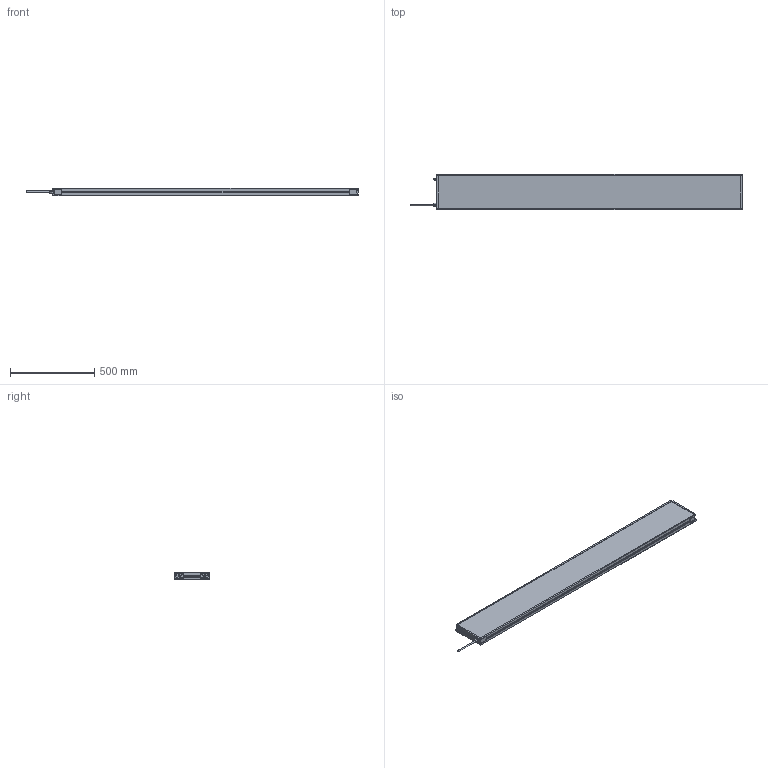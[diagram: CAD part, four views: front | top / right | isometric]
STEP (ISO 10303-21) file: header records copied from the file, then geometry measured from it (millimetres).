
FILE_DESCRIPTION (( 'STEP AP214' ), '1' );
FILE_NAME ('MBACK-xxxx-xxx-M1A2_CLIENT200x1800.STEP', '2022-04-01T11:30:31', ( '' ), ( '' ), 'SwSTEP 2.0', 'SolidWorks 2020', '' );
FILE_SCHEMA (( 'AUTOMOTIVE_DESIGN' ));
Length unit declared in the file: millimetre
Products named in the file (1): MBACK-xxxx-xxx-M1A2_CLIENT200x1800
Bounding box: 1967.4 x 208 x 45.5 mm (x, y, z)
Volume: 15594745.4 mm3; surface area: 1025929.6 mm2
Topology: 1 solids, 1 shells, 470 faces, 1210 edges, 804 vertices
Faces by surface type: plane 265, cylinder 117, bspline 80, cone 8
Entity records: 18046 total; most frequent: CARTESIAN_POINT 6837, ORIENTED_EDGE 2420, DIRECTION 2082, EDGE_CURVE 1210, VERTEX_POINT 804, VECTOR 800, LINE 800, AXIS2_PLACEMENT_3D 641
